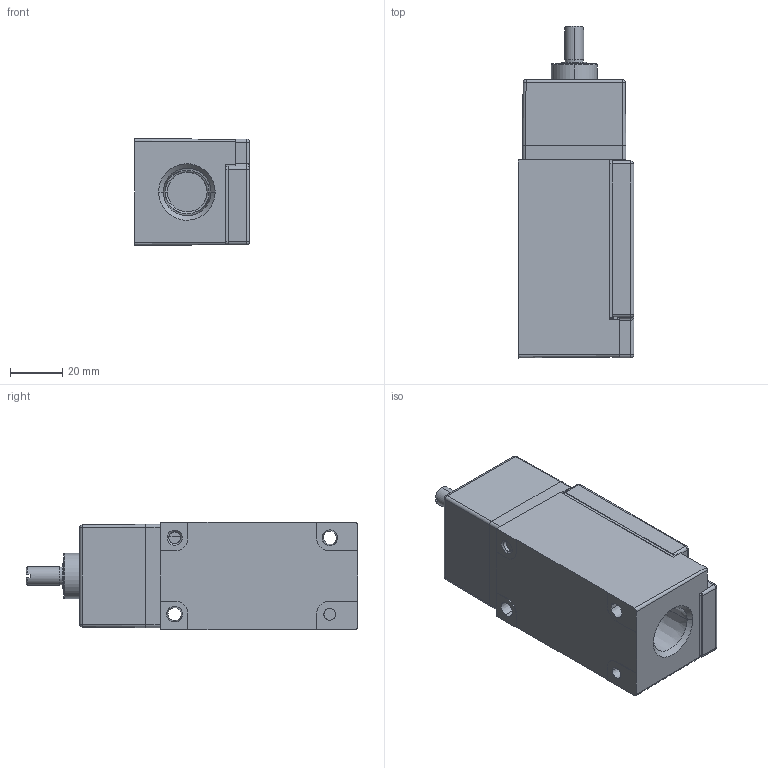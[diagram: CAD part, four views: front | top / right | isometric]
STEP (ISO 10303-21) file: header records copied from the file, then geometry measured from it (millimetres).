
FILE_DESCRIPTION((''),'2;1');
FILE_NAME('LSB3K_SW','2012-12-06T',('E522935'),(''),'PRO/ENGINEER BY PARAMETRIC TECHNOLOGY CORPORATION, 2009460','PRO/ENGINEER BY PARAMETRIC TECHNOLOGY CORPORATION, 2009460','');
FILE_SCHEMA(('CONFIG_CONTROL_DESIGN'));
Length unit declared in the file: inch
Products named in the file (1): LSB3K_SW
Bounding box: 44.32 x 127.36 x 41.15 mm (x, y, z)
Volume: 176038.5 mm3; surface area: 25797.1 mm2
Topology: 1 solids, 1 shells, 429 faces, 1031 edges, 624 vertices
Faces by surface type: plane 241, cylinder 134, cone 26, sphere 22, torus 4, bspline 2
Entity records: 13653 total; most frequent: CARTESIAN_POINT 3506, DIRECTION 2195, ORIENTED_EDGE 2062, EDGE_CURVE 1031, AXIS2_PLACEMENT_3D 801, VERTEX_POINT 624, VECTOR 593, LINE 593
